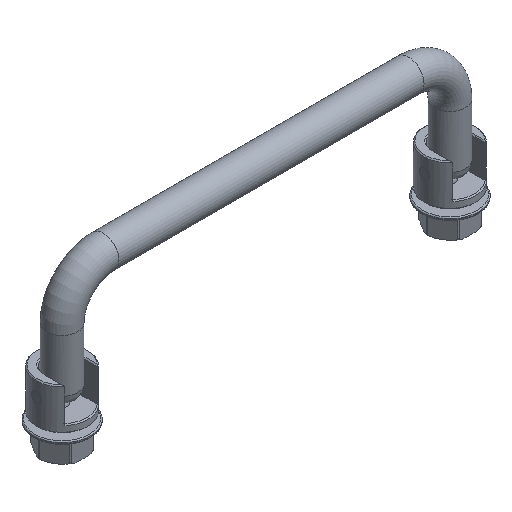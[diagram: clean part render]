
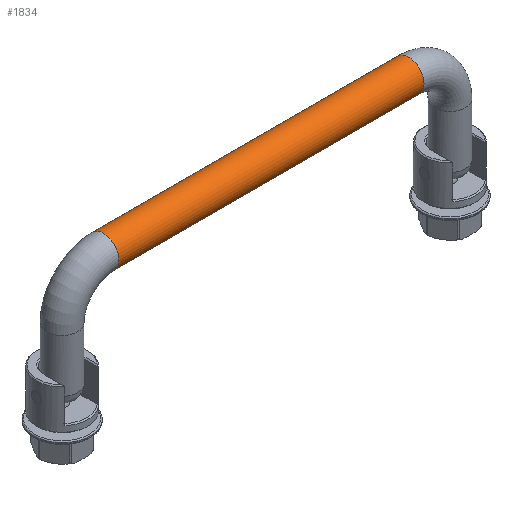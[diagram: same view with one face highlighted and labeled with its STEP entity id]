
A CAD part, isometric view. The second image highlights one B-rep face of the part: STEP entity #1834.
In plain terms, the highlighted cylindrical face has radius 3 mm (diameter 6 mm), a full revolution.
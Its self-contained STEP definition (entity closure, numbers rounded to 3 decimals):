
#234=FACE_BOUND('',#446,.T.);
#275=CIRCLE('',#1945,3.);
#276=CIRCLE('',#1947,3.);
#343=FACE_OUTER_BOUND('',#445,.T.);
#445=EDGE_LOOP('',(#1279));
#446=EDGE_LOOP('',(#1280));
#728=VERTEX_POINT('',#2733);
#729=VERTEX_POINT('',#2736);
#966=EDGE_CURVE('',#728,#728,#275,.T.);
#967=EDGE_CURVE('',#729,#729,#276,.T.);
#1279=ORIENTED_EDGE('',*,*,#967,.T.);
#1280=ORIENTED_EDGE('',*,*,#966,.F.);
#1793=CYLINDRICAL_SURFACE('',#1946,3.);
#1834=ADVANCED_FACE('',(#343,#234),#1793,.T.);
#1945=AXIS2_PLACEMENT_3D('',#2734,#2143,#2144);
#1946=AXIS2_PLACEMENT_3D('',#2735,#2145,#2146);
#1947=AXIS2_PLACEMENT_3D('',#2737,#2147,#2148);
#2143=DIRECTION('center_axis',(1.,0.,0.));
#2144=DIRECTION('ref_axis',(0.,0.,-1.));
#2145=DIRECTION('center_axis',(1.,0.,0.));
#2146=DIRECTION('ref_axis',(0.,0.,-1.));
#2147=DIRECTION('center_axis',(1.,0.,0.));
#2148=DIRECTION('ref_axis',(0.,0.,-1.));
#2733=CARTESIAN_POINT('',(29.5,0.,23.5));
#2734=CARTESIAN_POINT('Origin',(29.5,0.,20.5));
#2735=CARTESIAN_POINT('Origin',(-29.5,0.,20.5));
#2736=CARTESIAN_POINT('',(-29.5,0.,17.5));
#2737=CARTESIAN_POINT('Origin',(-29.5,0.,20.5));
